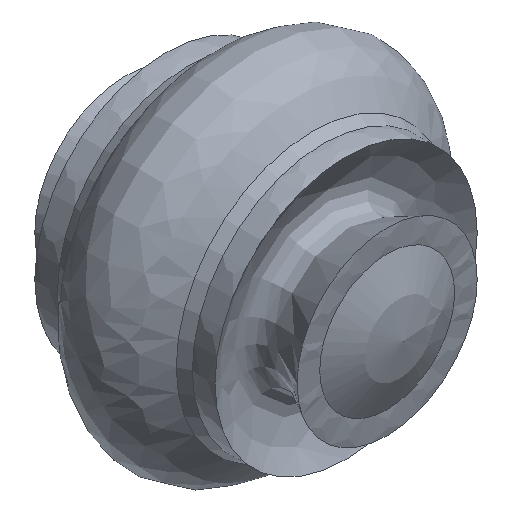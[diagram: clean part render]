
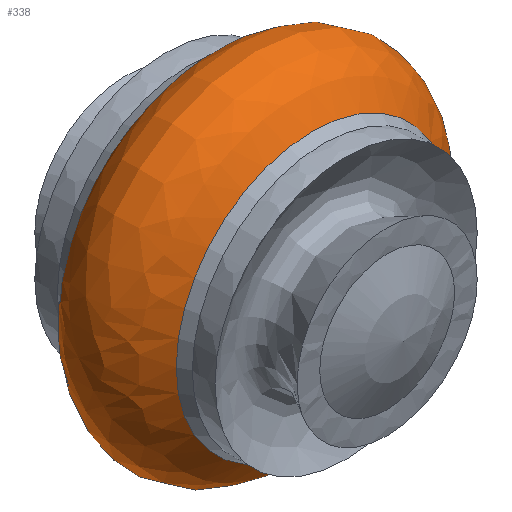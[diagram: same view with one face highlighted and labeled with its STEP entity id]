
A CAD part, isometric view. The second image highlights one B-rep face of the part: STEP entity #338.
In plain terms, the highlighted free-form (B-spline) face has degree [3, 3] with [4, 7] control points.
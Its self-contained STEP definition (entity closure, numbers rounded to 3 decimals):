
#248=CARTESIAN_POINT('',(23.094,-9.574,0.));
#249=VERTEX_POINT('',#248);
#260=CARTESIAN_POINT('',(-0.,-9.574,23.094));
#261=VERTEX_POINT('',#260);
#262=CARTESIAN_POINT('',(0.,-9.574,0.));
#263=DIRECTION('',(0.,1.,0.));
#264=DIRECTION('',(0.,-0.,1.));
#265=AXIS2_PLACEMENT_3D('',#262,#263,#264);
#266=CIRCLE('',#265,23.094);
#267=EDGE_CURVE('',#261,#249,#266,.T.);
#269=CARTESIAN_POINT('',(0.,-9.574,0.));
#270=DIRECTION('',(0.,1.,0.));
#271=DIRECTION('',(0.,-0.,1.));
#272=AXIS2_PLACEMENT_3D('',#269,#270,#271);
#273=CIRCLE('',#272,23.094);
#274=EDGE_CURVE('',#249,#261,#273,.T.);
#279=CARTESIAN_POINT('',(23.094,-9.574,0.));
#280=CARTESIAN_POINT('',(23.094,-9.574,-46.188));
#281=CARTESIAN_POINT('',(-23.094,-9.574,-46.188));
#282=CARTESIAN_POINT('',(-23.094,-9.574,0.));
#283=CARTESIAN_POINT('',(-23.094,-9.574,46.188));
#284=CARTESIAN_POINT('',(23.094,-9.574,46.188));
#285=CARTESIAN_POINT('',(23.094,-9.574,0.));
#286=CARTESIAN_POINT('',(32.771,-3.739,0.));
#287=CARTESIAN_POINT('',(32.771,-3.739,-65.541));
#288=CARTESIAN_POINT('',(-32.771,-3.739,-65.541));
#289=CARTESIAN_POINT('',(-32.771,-3.739,0.));
#290=CARTESIAN_POINT('',(-32.771,-3.739,65.541));
#291=CARTESIAN_POINT('',(32.771,-3.739,65.541));
#292=CARTESIAN_POINT('',(32.771,-3.739,0.));
#293=CARTESIAN_POINT('',(32.668,3.801,0.));
#294=CARTESIAN_POINT('',(32.668,3.801,-65.336));
#295=CARTESIAN_POINT('',(-32.668,3.801,-65.336));
#296=CARTESIAN_POINT('',(-32.668,3.801,0.));
#297=CARTESIAN_POINT('',(-32.668,3.801,65.336));
#298=CARTESIAN_POINT('',(32.668,3.801,65.336));
#299=CARTESIAN_POINT('',(32.668,3.801,0.));
#300=CARTESIAN_POINT('',(23.094,9.574,0.));
#301=CARTESIAN_POINT('',(23.094,9.574,-46.188));
#302=CARTESIAN_POINT('',(-23.094,9.574,-46.188));
#303=CARTESIAN_POINT('',(-23.094,9.574,0.));
#304=CARTESIAN_POINT('',(-23.094,9.574,46.188));
#305=CARTESIAN_POINT('',(23.094,9.574,46.188));
#306=CARTESIAN_POINT('',(23.094,9.574,0.));
#307=(BOUNDED_SURFACE()
B_SPLINE_SURFACE(3,3,((#279,#280,#281,#282,#283,#284,#285),(#286,#287,#288,#289,#290,#291,#292),(#293,#294,#295,#296,#297,#298,#299),(#300,#301,#302,#303,#304,#305,#306)),.UNSPECIFIED.,.F.,.T.,.U.)
B_SPLINE_SURFACE_WITH_KNOTS((4,4),(4,3,4),(0.162,0.349),(0.,0.5,1.),.UNSPECIFIED.)
GEOMETRIC_REPRESENTATION_ITEM()
RATIONAL_B_SPLINE_SURFACE(((0.579,0.193,0.193,0.579,0.193,0.193,0.579),(0.494,0.165,0.165,0.494,0.165,0.165,0.494),(0.499,0.166,0.166,0.499,0.166,0.166,0.499),(0.594,0.198,0.198,0.594,0.198,0.198,0.594)))
REPRESENTATION_ITEM('')
SURFACE()
);
#308=CARTESIAN_POINT('',(23.094,9.574,0.));
#309=VERTEX_POINT('',#308);
#310=CARTESIAN_POINT('',(23.094,9.574,0.));
#311=CARTESIAN_POINT('',(32.668,3.801,0.));
#312=CARTESIAN_POINT('',(32.771,-3.739,0.));
#313=CARTESIAN_POINT('',(23.094,-9.574,0.));
#314=(BOUNDED_CURVE()
B_SPLINE_CURVE(3,(#310,#311,#312,#313),.UNSPECIFIED.,.F.,.F.)
B_SPLINE_CURVE_WITH_KNOTS((4,4),(0.162,0.349),.UNSPECIFIED.)
CURVE()
GEOMETRIC_REPRESENTATION_ITEM()
RATIONAL_B_SPLINE_CURVE((0.594,0.499,0.494,0.579))
REPRESENTATION_ITEM(''));
#315=EDGE_CURVE('',#309,#249,#314,.T.);
#316=ORIENTED_EDGE('',*,*,#315,.F.);
#317=CARTESIAN_POINT('',(-0.,9.574,23.094));
#318=VERTEX_POINT('',#317);
#319=CARTESIAN_POINT('',(0.,9.574,0.));
#320=DIRECTION('',(0.,1.,0.));
#321=DIRECTION('',(0.,-0.,1.));
#322=AXIS2_PLACEMENT_3D('',#319,#320,#321);
#323=CIRCLE('',#322,23.094);
#324=EDGE_CURVE('',#318,#309,#323,.T.);
#325=ORIENTED_EDGE('',*,*,#324,.F.);
#326=CARTESIAN_POINT('',(0.,9.574,0.));
#327=DIRECTION('',(0.,1.,0.));
#328=DIRECTION('',(0.,-0.,1.));
#329=AXIS2_PLACEMENT_3D('',#326,#327,#328);
#330=CIRCLE('',#329,23.094);
#331=EDGE_CURVE('',#309,#318,#330,.T.);
#332=ORIENTED_EDGE('',*,*,#331,.F.);
#333=ORIENTED_EDGE('',*,*,#315,.T.);
#334=ORIENTED_EDGE('',*,*,#274,.T.);
#335=ORIENTED_EDGE('',*,*,#267,.T.);
#336=EDGE_LOOP('',(#316,#325,#332,#333,#334,#335));
#337=FACE_BOUND('',#336,.T.);
#338=ADVANCED_FACE('',(#337),#307,.F.);
